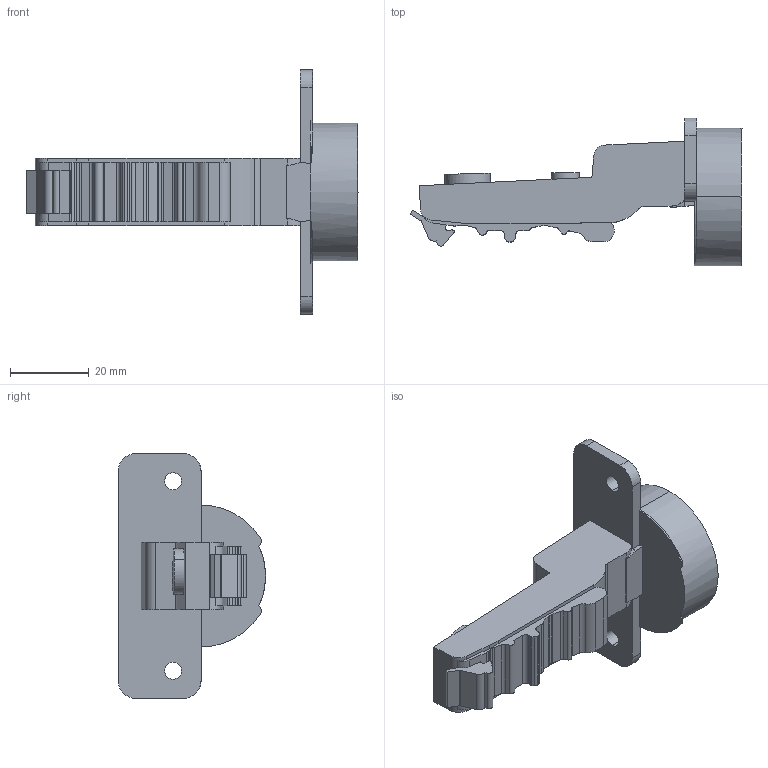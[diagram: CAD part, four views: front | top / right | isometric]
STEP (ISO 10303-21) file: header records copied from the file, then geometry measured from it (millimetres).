
FILE_DESCRIPTION (( 'STEP AP203' ), '1' );
FILE_NAME ('C82B676FA-DTC 3D close.STEP', '2024-09-06T02:31:30', ( '微软用户' ), ( '微软中国' ), 'SwSTEP 2.0', 'SolidWorks 2021', '' );
FILE_SCHEMA (( 'CONFIG_CONTROL_DESIGN' ));
Length unit declared in the file: millimetre
Products named in the file (1): C82B676FA-DTC 3D close
Bounding box: 84.09 x 37.35 x 61.96 mm (x, y, z)
Volume: 31826.9 mm3; surface area: 10081.9 mm2
Topology: 1 solids, 1 shells, 139 faces, 401 edges, 266 vertices
Faces by surface type: plane 67, cylinder 62, bspline 8, torus 2
Entity records: 4890 total; most frequent: CARTESIAN_POINT 1127, ORIENTED_EDGE 802, DIRECTION 763, EDGE_CURVE 401, VERTEX_POINT 266, AXIS2_PLACEMENT_3D 262, LINE 239, VECTOR 239
